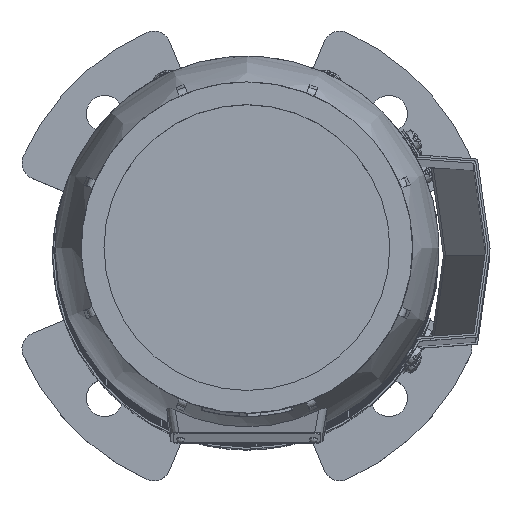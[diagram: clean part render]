
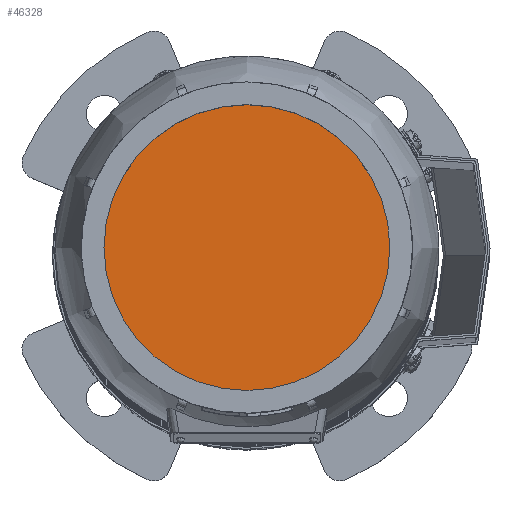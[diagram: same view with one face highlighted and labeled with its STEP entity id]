
A CAD part, top view. The second image highlights one B-rep face of the part: STEP entity #46328.
In plain terms, the highlighted planar face has unit normal (0, 0, 1) as drawn and (0, 1, 0) by its records, which use the part's own axes.
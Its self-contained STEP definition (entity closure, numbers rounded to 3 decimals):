
#9721=ORIENTED_EDGE('',*,*,#23667,.F.);
#23667=EDGE_CURVE('',#30640,#30640,#35347,.T.);
#30640=VERTEX_POINT('',#66953);
#35347=CIRCLE('',#48887,67.736);
#37469=EDGE_LOOP('',(#9721));
#40883=FACE_BOUND('',#37469,.T.);
#44315=PLANE('',#48886);
#46328=ADVANCED_FACE('',(#40883),#44315,.F.);
#48886=AXIS2_PLACEMENT_3D('',#66951,#53494,#53495);
#48887=AXIS2_PLACEMENT_3D('',#66952,#53496,#53497);
#53494=DIRECTION('',(0.,-1.,0.));
#53495=DIRECTION('',(0.,0.,-1.));
#53496=DIRECTION('',(0.,-1.,0.));
#53497=DIRECTION('',(0.,0.,-1.));
#66951=CARTESIAN_POINT('',(0.,154.,0.));
#66952=CARTESIAN_POINT('',(0.,154.,0.));
#66953=CARTESIAN_POINT('',(0.,154.,-67.736));
